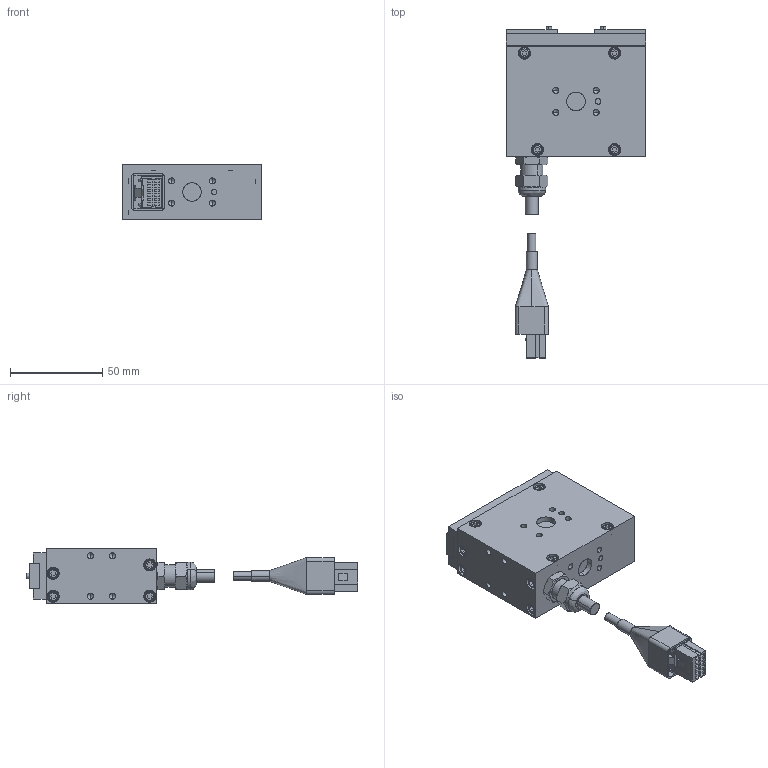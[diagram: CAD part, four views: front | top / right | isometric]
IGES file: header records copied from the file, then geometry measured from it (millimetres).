
Start section: SolidWorks IGES file using analytic representation for surfaces
Global section: file name: G:\SW2007図面\TAIYO\電動機器３Ｄ\電動グリッパ　２爪\ESG-FS-2020-P.IGS; native system: SolidWorks 2007; preprocessor: SolidWorks 2007; author: 風音庵,,1; organization: 1; date: 090212.180329; units: millimetre
Bounding box: 76 x 180.39 x 30 mm (x, y, z)
Surface area: 33156.3 mm2 (no closed solid volume)
Topology: 0 solids, 0 shells, 447 faces, 4979 edges, 4955 vertices
Faces by surface type: bspline 267, revolution 180
